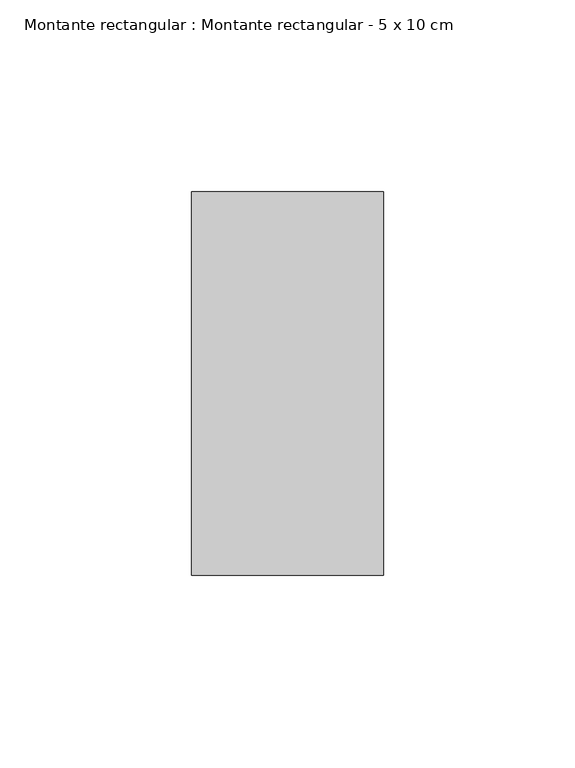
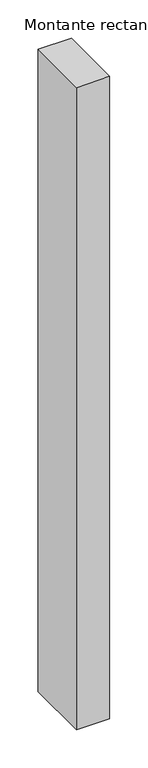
"""IFC4 building model written with IfcOpenShell, lengths in millimetres: member geometry, Montante rectangular : Montante rectangular - 5 x 10 cm."""

import ifcopenshell
import ifcopenshell.guid

model = None  # the IFC model being written
_history = None  # IfcOwnerHistory: only IFC2X3 demands one
_inside = {}  # id of a spatial element -> (the spatial element, [elements in it])
_under = {}  # id of a project, library or spatial element -> (it, [spatial elements below it])
_declared = {}  # id of a project -> (the project, [libraries it declares])
_typed = {}  # id of a type object -> (the type object, [elements of that type])
_made_of = {}  # id of a material, layer set ... -> (it, [elements and type objects made of it])


def new_model(schema):
    """Start an empty IFC model of exactly this schema.

    Asked for "IFC4X3", IfcOpenShell would pick the latest addendum, in which some entities
    have other attributes; the version numbers below select the first issue.
    IFC2X3 requires an IfcOwnerHistory on every rooted entity: one is made here for all.
    """
    global model, _history
    if schema == "IFC4X3":
        model = ifcopenshell.file(schema_version=(4, 3, 0, 0))
    else:
        model = ifcopenshell.file(schema=schema)
    _inside.clear()
    _under.clear()
    _declared.clear()
    _typed.clear()
    _made_of.clear()
    _history = None
    if model.schema == "IFC2X3":
        org = make("IfcOrganization", Name="unknown")
        user = make(
            "IfcPersonAndOrganization",
            ThePerson=make("IfcPerson", FamilyName="unknown"),
            TheOrganization=org,
        )
        app = make(
            "IfcApplication",
            ApplicationDeveloper=org,
            Version="unknown",
            ApplicationFullName="unknown",
            ApplicationIdentifier="unknown",
        )
        _history = make(
            "IfcOwnerHistory",
            OwningUser=user,
            OwningApplication=app,
            ChangeAction="ADDED",
            CreationDate=0,
        )
    return model


def make(cls, **values):
    """One entity of the class cls with the attributes given. An attribute that is None is left unset."""
    return model.create_entity(
        cls, **{name: value for name, value in values.items() if value is not None}
    )


def rooted(cls, **values):
    """An entity with a GlobalId (a new one), such as an element, a storey or a relation."""
    return make(cls, GlobalId=ifcopenshell.guid.new(), OwnerHistory=_history, **values)


def si_unit(unit_type, name, prefix=None):
    """IfcSIUnit, for example si_unit("LENGTHUNIT", "METRE", prefix="MILLI")."""
    return make("IfcSIUnit", UnitType=unit_type, Prefix=prefix, Name=name)


def assignment(units):
    """IfcUnitAssignment: the units of a project."""
    return None if units is None else make("IfcUnitAssignment", Units=units)


def point(xyz):
    """IfcCartesianPoint."""
    return None if xyz is None else make("IfcCartesianPoint", Coordinates=xyz)


def direction(xyz):
    """IfcDirection."""
    return None if xyz is None else make("IfcDirection", DirectionRatios=xyz)


def frame(location, z_axis=None, x_axis=None):
    """IfcAxis2Placement3D, a coordinate frame: its origin and axes. An axis left out is left unset."""
    return make(
        "IfcAxis2Placement3D",
        Location=point(location),
        Axis=direction(z_axis),
        RefDirection=direction(x_axis),
    )


def origin():
    """The frame at (0, 0, 0) with its axes left unset."""
    return frame((0.0, 0.0, 0.0))


def place(relative_to, where):
    """IfcLocalPlacement: puts the frame where relative to a parent placement (None: the world)."""
    return make(
        "IfcLocalPlacement", PlacementRelTo=relative_to, RelativePlacement=where
    )


def context(
    kind, dimensions, precision=None, world=None, true_north=None, identifier=None
):
    """IfcGeometricRepresentationContext, for example the 3D "Model" context."""
    return make(
        "IfcGeometricRepresentationContext",
        ContextIdentifier=identifier,
        ContextType=kind,
        CoordinateSpaceDimension=dimensions,
        Precision=precision,
        WorldCoordinateSystem=world,
        TrueNorth=true_north,
    )


def project(units=None, contexts=None):
    """IfcProject with its units and contexts."""
    return rooted(
        "IfcProject",
        Name="project",
        RepresentationContexts=contexts,
        UnitsInContext=assignment(units),
    )


def spatial(cls, under=None, at=None, **own):
    """A site, building, storey or space (cls), placed at a placement, below another one or the project."""
    s = rooted(cls, ObjectPlacement=at, **own)
    if under is not None:
        _under.setdefault(under.id(), (under, []))[1].append(s)
    return s


def polyline(points):
    """IfcPolyline through the points."""
    return make("IfcPolyline", Points=[point(p) for p in points])


def outline(outer, holes=None, kind="AREA"):
    """IfcArbitraryClosedProfileDef: a profile drawn as a closed curve; with holes, ...WithVoids."""
    if holes is None:
        return make("IfcArbitraryClosedProfileDef", ProfileType=kind, OuterCurve=outer)
    return make(
        "IfcArbitraryProfileDefWithVoids",
        ProfileType=kind,
        OuterCurve=outer,
        InnerCurves=holes,
    )


def extrude(swept, where, along, depth):
    """IfcExtrudedAreaSolid: the profile swept, set in the frame where, extruded along a direction by depth."""
    return make(
        "IfcExtrudedAreaSolid",
        SweptArea=swept,
        Position=where,
        ExtrudedDirection=direction(along),
        Depth=depth,
    )


def shape(context_of_items, identifier, shape_type, items):
    """IfcShapeRepresentation: the items that make up one representation, for example the "Body"."""
    return make(
        "IfcShapeRepresentation",
        ContextOfItems=context_of_items,
        RepresentationIdentifier=identifier,
        RepresentationType=shape_type,
        Items=items,
    )


def source(mapping_origin, context_of_items, identifier, shape_type, items):
    """IfcRepresentationMap: a shape defined once, which mapped items show again and again."""
    return make(
        "IfcRepresentationMap",
        MappingOrigin=mapping_origin,
        MappedRepresentation=shape(context_of_items, identifier, shape_type, items),
    )


def transform(
    local_origin,
    x_axis=None,
    y_axis=None,
    z_axis=None,
    scale=None,
    scale2=None,
    scale3=None,
    uniform=True,
):
    """IfcCartesianTransformationOperator3D, or its non-uniform kind. x_axis, y_axis, z_axis: its Axis1, 2, 3."""
    if uniform:
        return make(
            "IfcCartesianTransformationOperator3D",
            Axis1=direction(x_axis),
            Axis2=direction(y_axis),
            LocalOrigin=point(local_origin),
            Scale=scale,
            Axis3=direction(z_axis),
        )
    return make(
        "IfcCartesianTransformationOperator3DnonUniform",
        Axis1=direction(x_axis),
        Axis2=direction(y_axis),
        LocalOrigin=point(local_origin),
        Scale=scale,
        Axis3=direction(z_axis),
        Scale2=scale2,
        Scale3=scale3,
    )


def mapped(mapping_source, mapping_target):
    """IfcMappedItem: shows the shape of a source again, moved by a transform."""
    return make(
        "IfcMappedItem", MappingSource=mapping_source, MappingTarget=mapping_target
    )


def made_of(thing, what):
    """Note that an element or type object is made of a material, layer set ...; save() writes the relation."""
    if what is not None:
        _made_of.setdefault(what.id(), (what, []))[1].append(thing)
    return thing


def element(
    cls,
    number,
    at=None,
    inside=None,
    cuts=None,
    type_object=None,
    material=None,
    context=None,
    identifier="Body",
    shape_type=None,
    held_by="IfcProductDefinitionShape",
    body=None,
    shapes=None,
    **own,
):
    """One element of the class cls, such as IfcWall. Its Tag is "e" and its number.

    at: its placement. inside: the storey or other place that contains it. cuts: it is an
    opening in that element (IfcRelVoidsElement). A single representation is given by context,
    identifier, shape_type and body (its items); several are given by shapes. held_by: the class
    of the entity that holds the representations. save() writes the other relations.
    """
    e = rooted(cls, Tag="e%d" % number, ObjectPlacement=at, **own)
    if body is not None:
        shapes = [shape(context, identifier, shape_type, body)]
    if shapes is not None:
        e.Representation = make(held_by, Representations=shapes)
    if inside is not None:
        _inside.setdefault(inside.id(), (inside, []))[1].append(e)
    if cuts is not None:
        rooted(
            "IfcRelVoidsElement", RelatingBuildingElement=cuts, RelatedOpeningElement=e
        )
    if type_object is not None:
        _typed.setdefault(type_object.id(), (type_object, []))[1].append(e)
    return made_of(e, material)


def aggregate(whole, parts):
    """IfcRelAggregates: a whole, such as a stair, and the parts it consists of."""
    return rooted("IfcRelAggregates", RelatingObject=whole, RelatedObjects=parts)


def save(model, path):
    """Write the relations noted so far, then the file.

    IfcRelAggregates (storeys below a building ...), IfcRelContainedInSpatialStructure (elements
    in a storey), IfcRelDefinesByType, IfcRelAssociatesMaterial and IfcRelDeclares: one each for
    every whole, place, type object, material and project.
    """
    for whole, parts in _under.values():
        aggregate(whole, parts)
    for where, things in _inside.values():
        rooted(
            "IfcRelContainedInSpatialStructure",
            RelatedElements=things,
            RelatingStructure=where,
        )
    for kind, things in _typed.values():
        rooted("IfcRelDefinesByType", RelatedObjects=things, RelatingType=kind)
    for what, things in _made_of.values():
        rooted("IfcRelAssociatesMaterial", RelatedObjects=things, RelatingMaterial=what)
    for by, libraries in _declared.values():
        rooted("IfcRelDeclares", RelatingContext=by, RelatedDefinitions=libraries)
    model.write(path)


def montante_rectangular_montante_rectangular_5_x_10_cm_608e5239(model_context):
    return source(origin(), model_context, "Body", "SweptSolid", [
        extrude(outline(polyline([(25.0, 50.0), (25.0, -50.0), (-25.0, -50.0), (-25.0, 50.0), (25.0, 50.0)])), frame((0.0, 0.0, -1021.3856213), z_axis=(0.0, 0.0, 1.0), x_axis=(1.0, 0.0, 0.0)), (0.0, 0.0, 1.0), 1021.3856213),
    ])


if __name__ == "__main__":
    model = new_model("IFC4")
    model_context = context("Model", 3, world=origin())
    ifc_project = project(units=[si_unit("LENGTHUNIT", "METRE", prefix="MILLI")], contexts=[model_context])
    site = spatial("IfcSite", under=ifc_project)
    building = spatial("IfcBuilding", under=site)
    placement = place(None, origin())
    montante_rectangular_montante_rectangular_5_x_10_cm_shape = montante_rectangular_montante_rectangular_5_x_10_cm_608e5239(model_context)
    element("IfcMember", 1, ObjectType="Montante rectangular : Montante rectangular - 5 x 10 cm", at=placement, inside=building, context=model_context, shape_type="MappedRepresentation", body=[
        mapped(montante_rectangular_montante_rectangular_5_x_10_cm_shape, transform((0.0, 0.0, 0.0), x_axis=(1.0, 0.0, 0.0), y_axis=(0.0, 1.0, 0.0), z_axis=(0.0, 0.0, 1.0))),
    ])
    save(model, "model.ifc")
